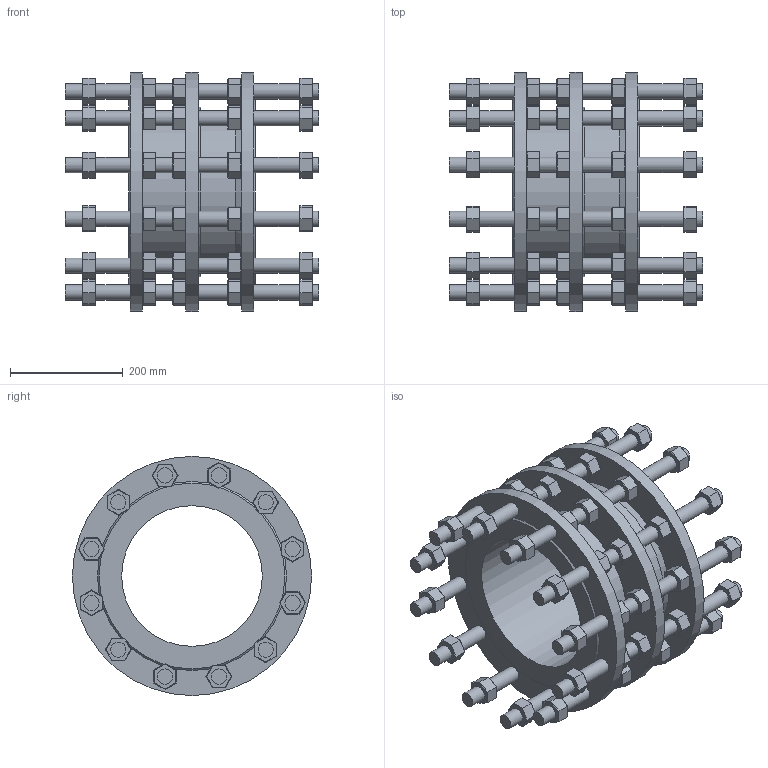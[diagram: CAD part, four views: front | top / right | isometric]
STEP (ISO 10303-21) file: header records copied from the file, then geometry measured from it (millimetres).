
FILE_DESCRIPTION (( 'STEP AP203' ), '1' );
FILE_NAME ('873025000741000.STEP', '2021-11-05T09:20:14', ( '' ), ( '' ), 'SwSTEP 2.0', 'SolidWorks 2020', '' );
FILE_SCHEMA (( 'CONFIG_CONTROL_DESIGN' ));
Length unit declared in the file: millimetre
Products named in the file (1): 873025000741000
Bounding box: 450 x 425 x 425 mm (x, y, z)
Volume: 12177393.1 mm3; surface area: 1675555.1 mm2
Topology: 61 solids, 61 shells, 1471 faces, 3159 edges, 1841 vertices
Faces by surface type: plane 1233, cone 123, cylinder 115
Full cylindrical faces by diameter (mm): 24 x60, 27 x48, 250 x1, 275 x1, 285 x1, 301 x1, 425 x3
Entity records: 36921 total; most frequent: DIRECTION 6174, CARTESIAN_POINT 6142, ORIENTED_EDGE 5750, EDGE_CURVE 2875, VECTOR 2520, LINE 2520, EDGE_LOOP 1910, AXIS2_PLACEMENT_3D 1827
